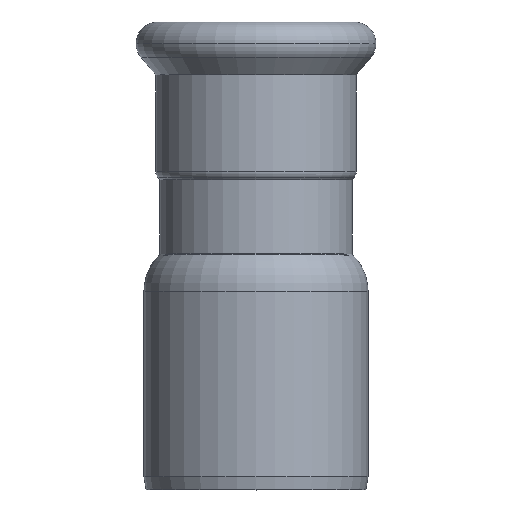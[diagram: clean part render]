
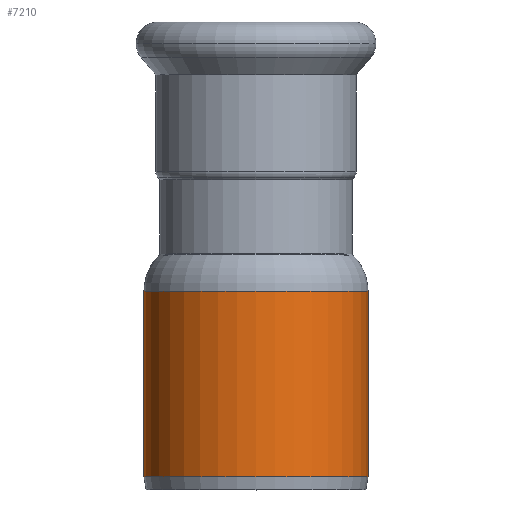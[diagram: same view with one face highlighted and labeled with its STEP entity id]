
A CAD part, top view. The second image highlights one B-rep face of the part: STEP entity #7210.
In plain terms, the highlighted cylindrical face has radius 17.5 mm (diameter 35 mm), a partial arc.
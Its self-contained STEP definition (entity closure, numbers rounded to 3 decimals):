
#1630=CARTESIAN_POINT('',(-185.476,24.607,0.));
#1640=VERTEX_POINT('',#1630);
#1670=CARTESIAN_POINT('',(-202.976,24.607,0.));
#1680=DIRECTION('',(0.,-1.,0.));
#1690=DIRECTION('',(-1.,0.,0.));
#1700=AXIS2_PLACEMENT_3D('',#1670,#1680,#1690);
#1710=CIRCLE('',#1700,17.5);
#1720=CARTESIAN_POINT('',(-220.476,24.607,0.));
#1730=VERTEX_POINT('',#1720);
#1740=EDGE_CURVE('',#1640,#1730,#1710,.T.);
#1870=CARTESIAN_POINT('',(-202.976,33.421,0.));
#1880=DIRECTION('',(0.,-1.,0.));
#1890=DIRECTION('',(1.,0.,0.));
#1900=AXIS2_PLACEMENT_3D('',#1870,#1880,#1890);
#1910=CYLINDRICAL_SURFACE('',#1900,17.5);
#1920=CARTESIAN_POINT('',(-185.476,33.421,0.));
#1930=DIRECTION('',(0.,-1.,0.));
#1940=VECTOR('',#1930,1.);
#1950=LINE('',#1920,#1940);
#1960=CARTESIAN_POINT('',(-185.476,-4.379,0.));
#1970=VERTEX_POINT('',#1960);
#1980=EDGE_CURVE('',#1640,#1970,#1950,.T.);
#2020=CARTESIAN_POINT('',(-220.476,33.421,
0.));
#2030=DIRECTION('',(0.,-1.,0.));
#2040=VECTOR('',#2030,1.);
#2050=LINE('',#2020,#2040);
#2060=CARTESIAN_POINT('',(-220.476,-4.379,
0.));
#2070=VERTEX_POINT('',#2060);
#2080=EDGE_CURVE('',#1730,#2070,#2050,.T.);
#2100=CARTESIAN_POINT('',(-202.976,-4.379,0.));
#2110=DIRECTION('',(0.,-1.,0.));
#2120=DIRECTION('',(-1.,0.,0.));
#2130=AXIS2_PLACEMENT_3D('',#2100,#2110,#2120);
#2140=CIRCLE('',#2130,17.5);
#7090=EDGE_CURVE('',#1970,#2070,#2140,.T.);
#7150=ORIENTED_EDGE('',*,*,#1980,.F.);
#7160=ORIENTED_EDGE('',*,*,#7090,.F.);
#7170=ORIENTED_EDGE('',*,*,#2080,.T.);
#7180=ORIENTED_EDGE('',*,*,#1740,.T.);
#7190=EDGE_LOOP('',(#7180,#7170,#7160,#7150));
#7200=FACE_OUTER_BOUND('',#7190,.T.);
#7210=ADVANCED_FACE('',(#7200),#1910,.T.);
